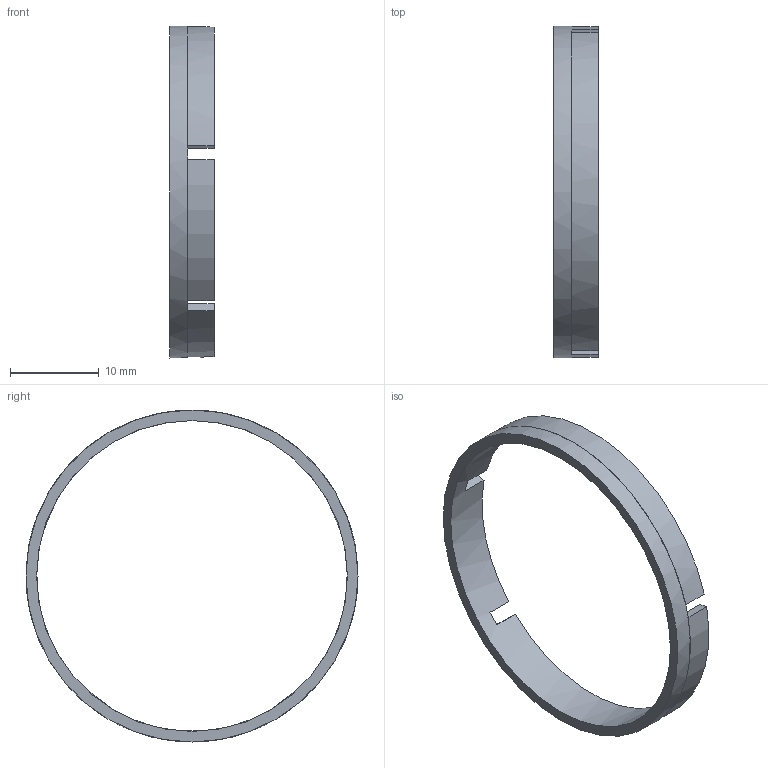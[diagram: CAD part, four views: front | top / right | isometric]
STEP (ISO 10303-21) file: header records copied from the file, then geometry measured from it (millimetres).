
FILE_DESCRIPTION(('SkyG Speed 90 - revision C6-9 - 2026-10-07','N0PD-dome-ring'),'2;1');
FILE_NAME('N0PD-dome-ring_C6-9','2026-10-07T14:03:25',('Author'),( 'Open CASCADE'),'Open CASCADE STEP processor 7.9','Open CASCADE 7.9' ,'Unknown');
FILE_SCHEMA(('AUTOMOTIVE_DESIGN { 1 0 10303 214 1 1 1 1 }'));
Length unit declared in the file: millimetre
Products named in the file (1): N0PD-dome-ring C6-9
Bounding box: 5 x 37.5 x 37.5 mm (x, y, z)
Volume: 643.8 mm3; surface area: 1401.6 mm2
Topology: 1 solids, 1 shells, 31 faces, 90 edges, 60 vertices
Faces by surface type: plane 24, cylinder 6, bspline 1
Full cylindrical faces by diameter (mm): 35.1 x1, 37.5 x1
Entity records: 2168 total; most frequent: CARTESIAN_POINT 532, DIRECTION 256, ORIENTED_EDGE 180, PCURVE 180, DEFINITIONAL_REPRESENTATION 180, B_SPLINE_CURVE_WITH_KNOTS 107, LINE 97, VECTOR 97
